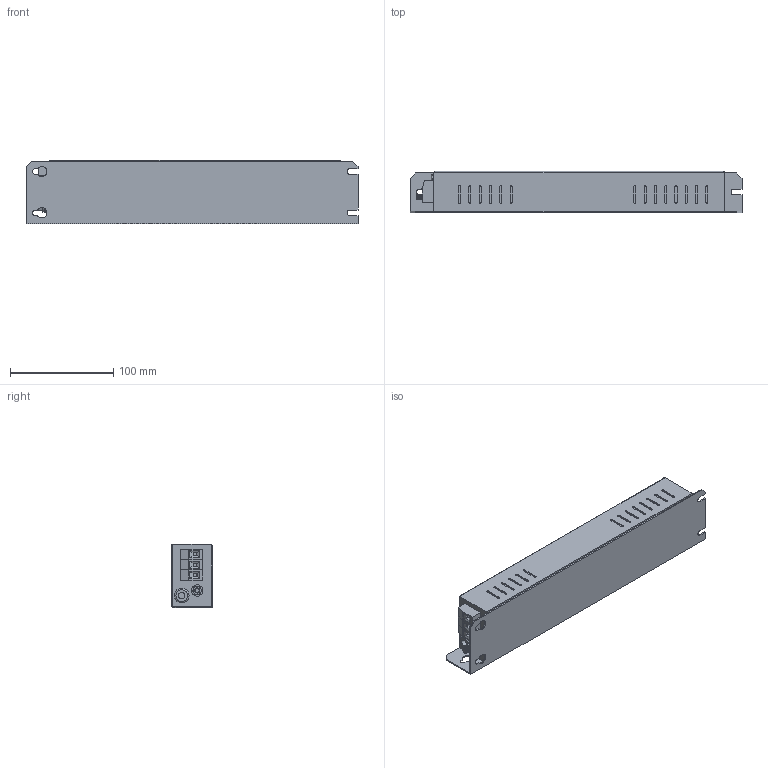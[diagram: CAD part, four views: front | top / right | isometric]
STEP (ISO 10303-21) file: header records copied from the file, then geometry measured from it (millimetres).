
FILE_DESCRIPTION (( 'STEP AP203' ), '1' );
FILE_NAME ('NF-U-LE-i550-34009.STEP', '2021-09-09T12:52:39', ( '' ), ( '' ), 'SwSTEP 2.0', 'SolidWorks 2017', '' );
FILE_SCHEMA (( 'CONFIG_CONTROL_DESIGN' ));
Length unit declared in the file: millimetre
Products named in the file (9): NF-U-LE-i550-34009; flat washer narrow_am_B18.22M - Plain washer, 5 mm, narrow; VDFK4x3; Grommet_15069; VDFK-4; M5x20 Earth post; hex screw_am_B18.6.7M - M5 x 0.8 x 13 Indented HHMS --13S; hex nut style 1_am_B18.2.4.1M - Hex nut, Style 1,  M5 x 0.8 --D-N
Assembly tree (11 placements, depth 3):
  NF-U-LE-i550-34009
    NF-U-LE-i550-34009
    M5x20 Earth post
      flat washer narrow_am_B18.22M - Plain washer, 5 mm, narrow  x2
      hex nut style 1_am_B18.2.4.1M - Hex nut, Style 1,  M5 x 0.8 --D-N
      hex screw_am_B18.6.7M - M5 x 0.8 x 13 Indented HHMS --13S
    Grommet_15069
    VDFK4x3
      VDFK-4  x3
Bounding box: 322 x 40 x 62 mm (x, y, z)
Volume: 706512.5 mm3; surface area: 77658.6 mm2
Topology: 9 solids, 9 shells, 434 faces, 1057 edges, 674 vertices
Faces by surface type: plane 206, cylinder 128, cone 96, torus 4
Entity records: 11598 total; most frequent: CARTESIAN_POINT 1951, DIRECTION 1931, ORIENTED_EDGE 1726, EDGE_CURVE 863, AXIS2_PLACEMENT_3D 738, VERTEX_POINT 550, VECTOR 455, LINE 455
